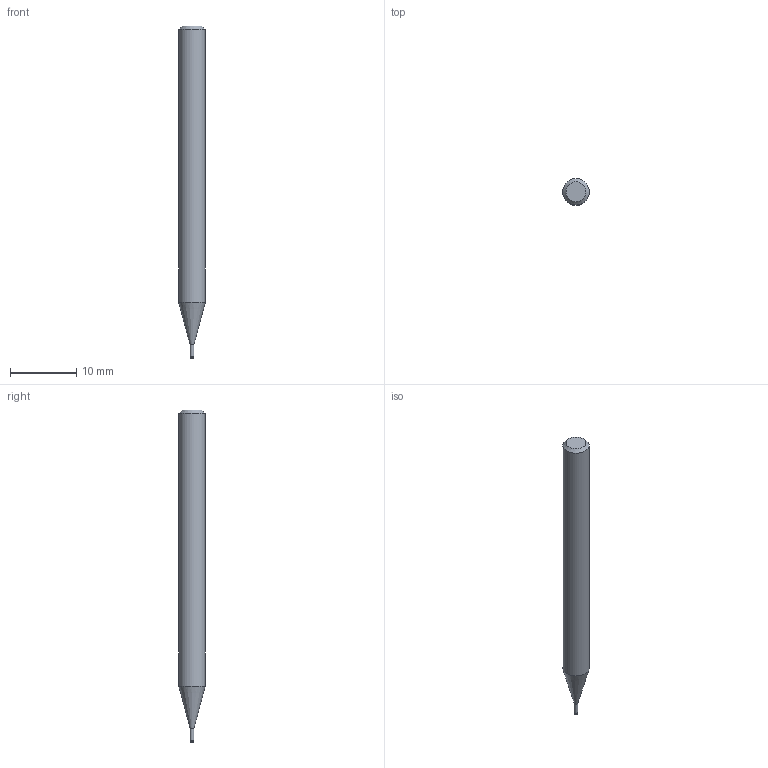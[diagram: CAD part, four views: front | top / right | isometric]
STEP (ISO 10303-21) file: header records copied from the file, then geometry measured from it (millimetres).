
FILE_DESCRIPTION((''),'2;1');
FILE_NAME('C:\Users\nsx150\AppData\Local\Temp\Mastercam 2021\LJSIDMOTM8\TEMP.step','2021-08-03T14:04:32',(''),(''),'STEP Write','Mastercam 2021 ... CNC Software, Inc.','');
FILE_SCHEMA(('AUTOMOTIVE_DESIGN'));
Length unit declared in the file: millimetre
Products named in the file (1): None
Bounding box: 4 x 4 x 50 mm (x, y, z)
Volume: 552.8 mm3; surface area: 583 mm2
Topology: 2 solids, 2 shells, 10 faces, 14 edges, 8 vertices
Faces by surface type: plane 4, cylinder 3, cone 2, torus 1
Full cylindrical faces by diameter (mm): 0.56 x1, 0.6 x1, 4 x1
Entity records: 232 total; most frequent: DIRECTION 40, CARTESIAN_POINT 28, AXIS2_PLACEMENT_3D 20, ORIENTED_EDGE 16, EDGE_LOOP 16, STYLED_ITEM 13, ADVANCED_FACE 10, FACE_BOUND 10
